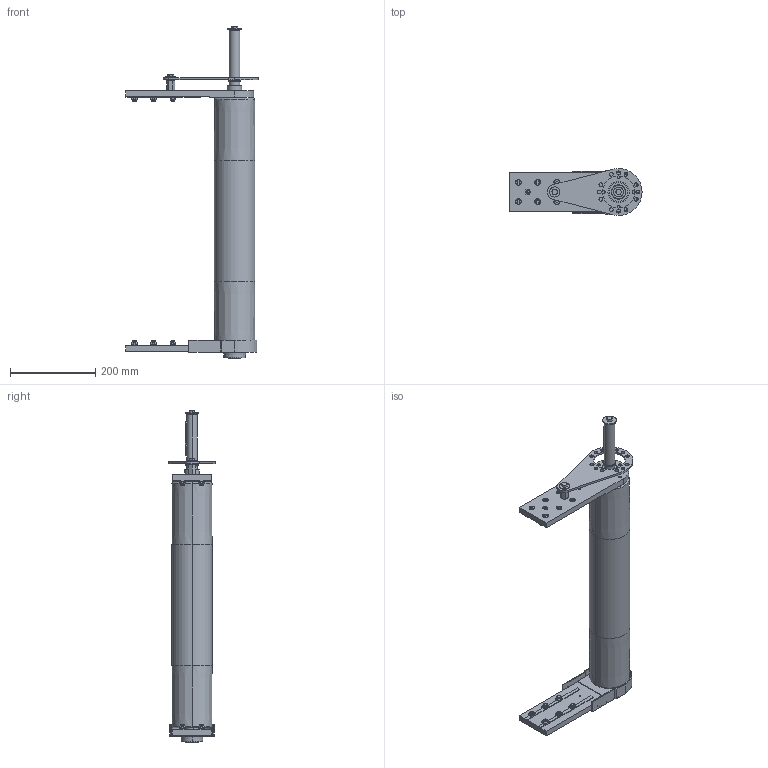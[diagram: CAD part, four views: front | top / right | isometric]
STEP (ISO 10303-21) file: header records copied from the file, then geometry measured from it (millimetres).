
FILE_DESCRIPTION (( 'STEP AP214' ), '1' );
FILE_NAME ('084.095.KD.63.550.STEP', '2020-09-09T06:51:33', ( 'Localadmin' ), ( 'Microsoft' ), 'SwSTEP 2.0', 'SolidWorks 2018', '' );
FILE_SCHEMA (( 'AUTOMOTIVE_DESIGN' ));
Length unit declared in the file: millimetre
Products named in the file (22): 084.802.027; 084.808.005-1; 084.301.000 VITI ALUSIC_084.301.003; 084.803.005-1; RONDELLE FASCIA LARGA UNI 6593_8.4x24 UNI 6593; 084.095.KD.63.550; VITI TE UNI 5739_M8x16 UNI 5739; RONDELLE FASCIA LARGA UNI 6593_8.4x32 UNI 6593; VITI TSEI UNI 5933_M4x12 UNI 5933; Circlip DIN 471 - 25 x 1.2_Circlip DIN 471 - 25 x 1.2; CHIAVETTE_A 8x7x80 UNI 6604-69; CHIAVETTE_A 8x7x25 UNI 6604-69; 084.802.019_084.802.019; 084.810.003; 084.808.002_084.808.002; 084.808.003_084.808.003; 084.812.003; 084.816.150_084.816.107<A macchina>; GRANI A PUNTA PIATTA UNI 5923_M8x25 UNI 5923; 084.802.034_084.802.034; 084.812.004; 084.302.000 DADI ALUSIC 13x13_084.302.004
Assembly tree (46 placements, depth 2):
  084.095.KD.63.550
    084.803.005-1
    084.808.005-1
    084.802.027
    084.812.004
    084.802.034_084.802.034
    084.816.150_084.816.107<A macchina>
    084.812.003
    084.808.003_084.808.003
    084.808.002_084.808.002
    084.810.003  x2
    084.802.019_084.802.019
    CHIAVETTE_A 8x7x25 UNI 6604-69
    CHIAVETTE_A 8x7x80 UNI 6604-69
    Circlip DIN 471 - 25 x 1.2_Circlip DIN 471 - 25 x 1.2
    VITI TSEI UNI 5933_M4x12 UNI 5933  x2
    RONDELLE FASCIA LARGA UNI 6593_8.4x32 UNI 6593
    VITI TE UNI 5739_M8x16 UNI 5739  x2
    RONDELLE FASCIA LARGA UNI 6593_8.4x24 UNI 6593
    084.301.000 VITI ALUSIC_084.301.003  x12
    084.302.000 DADI ALUSIC 13x13_084.302.004  x12
    GRANI A PUNTA PIATTA UNI 5923_M8x25 UNI 5923
Bounding box: 310 x 110 x 779.33 mm (x, y, z)
Volume: 2120860.4 mm3; surface area: 905862.6 mm2
Topology: 51 solids, 52 shells, 1333 faces, 3372 edges, 2193 vertices
Faces by surface type: plane 705, cylinder 365, cone 110, torus 96, bspline 48, sphere 9
Entity records: 30332 total; most frequent: CARTESIAN_POINT 6061, DIRECTION 4833, ORIENTED_EDGE 4724, EDGE_CURVE 2362, AXIS2_PLACEMENT_3D 1722, VERTEX_POINT 1544, VECTOR 1389, LINE 1389
